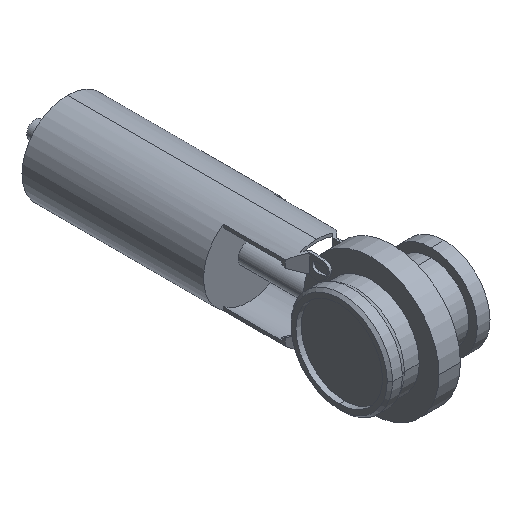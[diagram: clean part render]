
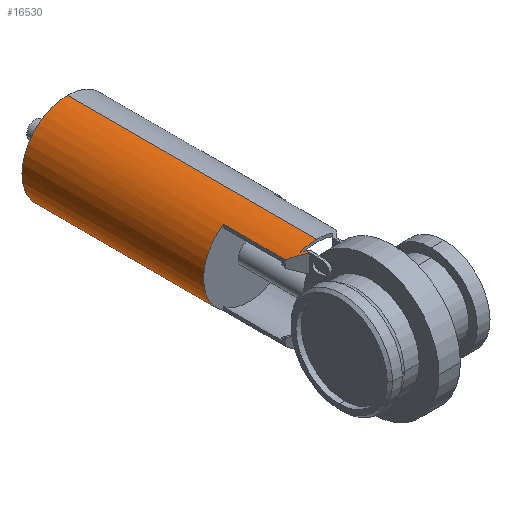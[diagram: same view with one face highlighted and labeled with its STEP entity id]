
A CAD part, isometric view. The second image highlights one B-rep face of the part: STEP entity #16530.
In plain terms, the highlighted cylindrical face has radius 42.5 mm (diameter 85 mm), a partial arc.
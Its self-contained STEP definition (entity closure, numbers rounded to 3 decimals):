
#9240=CARTESIAN_POINT('',(-113.184,106.406,
-39.743));
#9250=VERTEX_POINT('',#9240);
#9280=CARTESIAN_POINT('',(-98.126,91.348,
0.));
#9290=DIRECTION('',(0.707,0.707,0.));
#9300=DIRECTION('',(0.707,-0.707,0.));
#9310=AXIS2_PLACEMENT_3D('',#9280,#9290,#9300);
#9320=ELLIPSE('',#9310,60.104,42.5);
#9330=CARTESIAN_POINT('',(-108.126,101.348,
-41.307));
#9340=VERTEX_POINT('',#9330);
#9350=EDGE_CURVE('',#9340,#9250,#9320,.T.);
#10770=CARTESIAN_POINT('',(-110.626,93.857,
-40.62));
#10780=VERTEX_POINT('',#10770);
#10810=CARTESIAN_POINT('',(-110.626,366.667,
-40.62));
#10820=DIRECTION('',(0.,-1.,0.));
#10830=VECTOR('',#10820,1.);
#10840=LINE('',#10810,#10830);
#10850=CARTESIAN_POINT('',(-110.626,100.312,
-40.62));
#10860=VERTEX_POINT('',#10850);
#10870=EDGE_CURVE('',#10860,#10780,#10840,.T.);
#12280=CARTESIAN_POINT('',(-98.126,87.812,
0.));
#12290=DIRECTION('',(0.707,0.707,0.));
#12300=DIRECTION('',(0.707,-0.707,0.));
#12310=AXIS2_PLACEMENT_3D('',#12280,#12290,#12300);
#12320=ELLIPSE('',#12310,60.104,42.5);
#12330=CARTESIAN_POINT('',(-122.126,111.812,
-35.075));
#12340=VERTEX_POINT('',#12330);
#12350=EDGE_CURVE('',#10860,#12340,#12320,.T.);
#15270=CARTESIAN_POINT('',(-98.126,169.806,
0.));
#15280=DIRECTION('',(0.,-1.,0.));
#15290=DIRECTION('',(0.,0.,-1.));
#15300=AXIS2_PLACEMENT_3D('',#15270,#15280,#15290);
#15310=CYLINDRICAL_SURFACE('',#15300,42.5);
#15320=CARTESIAN_POINT('',(-98.126,91.348,
0.));
#15330=DIRECTION('',(0.707,0.707,0.));
#15340=DIRECTION('',(-0.707,0.707,0.));
#15350=AXIS2_PLACEMENT_3D('',#15320,#15330,#15340);
#15360=ELLIPSE('',#15350,60.104,42.5);
#15370=CARTESIAN_POINT('',(-113.184,106.406,
39.743));
#15380=VERTEX_POINT('',#15370);
#15390=CARTESIAN_POINT('',(-110.626,103.848,
40.62));
#15400=VERTEX_POINT('',#15390);
#15410=EDGE_CURVE('',#15380,#15400,#15360,.T.);
#15420=ORIENTED_EDGE('',*,*,#15410,.F.);
#15430=CARTESIAN_POINT('',(-110.626,366.667,
40.62));
#15440=DIRECTION('',(0.,-1.,0.));
#15450=VECTOR('',#15440,1.);
#15460=LINE('',#15430,#15450);
#15470=CARTESIAN_POINT('',(-110.626,100.312,
40.62));
#15480=VERTEX_POINT('',#15470);
#15490=EDGE_CURVE('',#15400,#15480,#15460,.T.);
#15500=ORIENTED_EDGE('',*,*,#15490,.F.);
#15510=CARTESIAN_POINT('',(-98.126,87.812,
0.));
#15520=DIRECTION('',(-0.707,-0.707,0.));
#15530=DIRECTION('',(0.707,-0.707,0.));
#15540=AXIS2_PLACEMENT_3D('',#15510,#15520,#15530);
#15550=ELLIPSE('',#15540,60.104,42.5);
#15560=CARTESIAN_POINT('',(-122.126,111.812,
35.075));
#15570=VERTEX_POINT('',#15560);
#15580=EDGE_CURVE('',#15480,#15570,#15550,.T.);
#15590=ORIENTED_EDGE('',*,*,#15580,.F.);
#15600=CARTESIAN_POINT('',(-122.126,366.667,
35.075));
#15610=DIRECTION('',(0.,-1.,0.));
#15620=VECTOR('',#15610,1.);
#15630=LINE('',#15600,#15620);
#15640=CARTESIAN_POINT('',(-122.126,169.806,
35.075));
#15650=VERTEX_POINT('',#15640);
#15660=EDGE_CURVE('',#15650,#15570,#15630,.T.);
#15670=ORIENTED_EDGE('',*,*,#15660,.T.);
#15680=CARTESIAN_POINT('',(-98.126,169.806,
0.));
#15690=DIRECTION('',(0.,-1.,0.));
#15700=DIRECTION('',(0.,0.,1.));
#15710=AXIS2_PLACEMENT_3D('',#15680,#15690,#15700);
#15720=CIRCLE('',#15710,42.5);
#15730=CARTESIAN_POINT('',(-122.126,169.806,
-35.075));
#15740=VERTEX_POINT('',#15730);
#15750=EDGE_CURVE('',#15650,#15740,#15720,.T.);
#15760=ORIENTED_EDGE('',*,*,#15750,.F.);
#15770=CARTESIAN_POINT('',(-122.126,366.667,
-35.075));
#15780=DIRECTION('',(0.,-1.,0.));
#15790=VECTOR('',#15780,1.);
#15800=LINE('',#15770,#15790);
#15810=EDGE_CURVE('',#15740,#12340,#15800,.T.);
#15820=ORIENTED_EDGE('',*,*,#15810,.F.);
#15830=ORIENTED_EDGE('',*,*,#12350,.T.);
#15840=ORIENTED_EDGE('',*,*,#10870,.F.);
#15850=CARTESIAN_POINT('',(-98.126,-262.662,
0.));
#15860=DIRECTION('',(0.,-0.113,-0.994));
#15870=DIRECTION('',(0.,0.994,-0.113));
#15880=AXIS2_PLACEMENT_3D('',#15850,#15860,#15870);
#15890=ELLIPSE('',#15880,375.431,42.5);
#15900=CARTESIAN_POINT('',(-108.774,98.46,
-41.145));
#15910=VERTEX_POINT('',#15900);
#15920=EDGE_CURVE('',#10780,#15910,#15890,.T.);
#15930=ORIENTED_EDGE('',*,*,#15920,.F.);
#15940=CARTESIAN_POINT('',(-98.126,87.812,
0.));
#15950=DIRECTION('',(-0.707,-0.707,0.));
#15960=DIRECTION('',(-0.707,0.707,0.));
#15970=AXIS2_PLACEMENT_3D('',#15940,#15950,#15960);
#15980=ELLIPSE('',#15970,60.104,42.5);
#15990=CARTESIAN_POINT('',(-108.126,97.812,
-41.307));
#16000=VERTEX_POINT('',#15990);
#16010=EDGE_CURVE('',#15910,#16000,#15980,.T.);
#16020=ORIENTED_EDGE('',*,*,#16010,.F.);
#16030=CARTESIAN_POINT('',(-108.126,366.667,
-41.307));
#16040=DIRECTION('',(0.,-1.,0.));
#16050=VECTOR('',#16040,1.);
#16060=LINE('',#16030,#16050);
#16070=EDGE_CURVE('',#9340,#16000,#16060,.T.);
#16080=ORIENTED_EDGE('',*,*,#16070,.T.);
#16090=ORIENTED_EDGE('',*,*,#9350,.F.);
#16100=CARTESIAN_POINT('',(-98.126,106.406,
0.));
#16110=DIRECTION('',(0.,-1.,0.));
#16120=DIRECTION('',(0.,0.,-1.));
#16130=AXIS2_PLACEMENT_3D('',#16100,#16110,#16120);
#16140=CIRCLE('',#16130,42.5);
#16150=CARTESIAN_POINT('',(-98.126,106.406,-42.5));
#16160=VERTEX_POINT('',#16150);
#16170=EDGE_CURVE('',#9250,#16160,#16140,.T.);
#16180=ORIENTED_EDGE('',*,*,#16170,.F.);
#16190=CARTESIAN_POINT('',(-98.126,169.806,-42.5));
#16200=DIRECTION('',(0.,-1.,0.));
#16210=VECTOR('',#16200,1.);
#16220=LINE('',#16190,#16210);
#16230=CARTESIAN_POINT('',(-98.126,339.806,-42.5));
#16240=VERTEX_POINT('',#16230);
#16250=EDGE_CURVE('',#16240,#16160,#16220,.T.);
#16260=ORIENTED_EDGE('',*,*,#16250,.T.);
#16270=CARTESIAN_POINT('',(-98.126,339.806,
0.));
#16280=DIRECTION('',(0.,-1.,0.));
#16290=DIRECTION('',(0.,0.,-1.));
#16300=AXIS2_PLACEMENT_3D('',#16270,#16280,#16290);
#16310=CIRCLE('',#16300,42.5);
#16320=CARTESIAN_POINT('',(-98.126,339.806,42.5));
#16330=VERTEX_POINT('',#16320);
#16340=EDGE_CURVE('',#16330,#16240,#16310,.T.);
#16350=ORIENTED_EDGE('',*,*,#16340,.T.);
#16360=CARTESIAN_POINT('',(-98.126,169.806,42.5));
#16370=DIRECTION('',(0.,-1.,0.));
#16380=VECTOR('',#16370,1.);
#16390=LINE('',#16360,#16380);
#16400=CARTESIAN_POINT('',(-98.126,106.406,42.5));
#16410=VERTEX_POINT('',#16400);
#16420=EDGE_CURVE('',#16330,#16410,#16390,.T.);
#16430=ORIENTED_EDGE('',*,*,#16420,.F.);
#16440=CARTESIAN_POINT('',(-98.126,106.406,
0.));
#16450=DIRECTION('',(0.,-1.,0.));
#16460=DIRECTION('',(0.,0.,1.));
#16470=AXIS2_PLACEMENT_3D('',#16440,#16450,#16460);
#16480=CIRCLE('',#16470,42.5);
#16490=EDGE_CURVE('',#16410,#15380,#16480,.T.);
#16500=ORIENTED_EDGE('',*,*,#16490,.F.);
#16510=EDGE_LOOP('',(#16500,#16430,#16350,#16260,#16180,#16090,#16080,
#16020,#15930,#15840,#15830,#15820,#15760,#15670,#15590,#15500,#15420));
#16520=FACE_OUTER_BOUND('',#16510,.T.);
#16530=ADVANCED_FACE('',(#16520),#15310,.T.);
